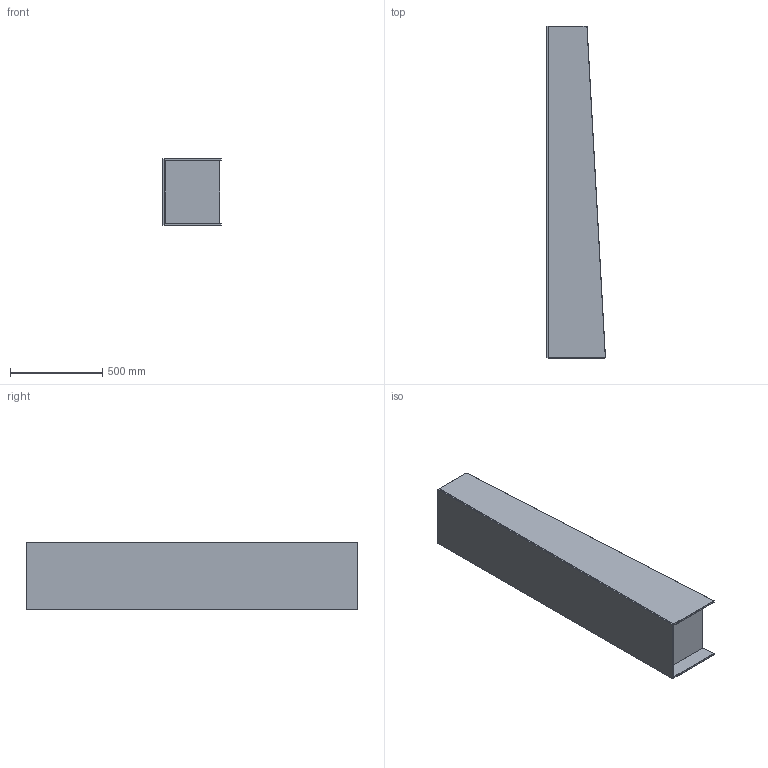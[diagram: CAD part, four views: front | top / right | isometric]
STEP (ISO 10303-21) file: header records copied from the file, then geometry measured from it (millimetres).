
FILE_DESCRIPTION((''),'2;1');
FILE_NAME('C:\AutodeskVault\AreaLavoro\Progetti\SoVeT Italia\4. Complementi_Accessorizes\Olympia\Web file\Olympia Web\P6812.stp','2012-09-20T14:07:27',('Gianluca'),('So.Ve.T. s.r.l.'),'Autodesk Inventor 2013','Autodesk Inventor 2013','IL PROGETTO E'' DI ESCLUSIVA PROPRIETA'' DELLA SO.VE.T. srl. E'' VIETATA OGNI RIPRODUZIONE TOTALE O PARZIALE E QUALSIASI UTILIZZO NON AUTORIZZATO.');
FILE_SCHEMA(('AUTOMOTIVE_DESIGN { 1 0 10303 214 1 1 1 1 }'));
Length unit declared in the file: millimetre
Products named in the file (1): P6812 Contorno semplificato
Bounding box: 319.82 x 1800 x 360 mm (x, y, z)
Volume: 20899734.3 mm3; surface area: 4252014.7 mm2
Topology: 1 solids, 1 shells, 224 faces, 510 edges, 232 vertices
Faces by surface type: plane 116, cone 72, cylinder 36
Entity records: 5811 total; most frequent: DIRECTION 992, CARTESIAN_POINT 911, ORIENTED_EDGE 908, EDGE_CURVE 454, VECTOR 366, LINE 366, AXIS2_PLACEMENT_3D 313, EDGE_LOOP 236
